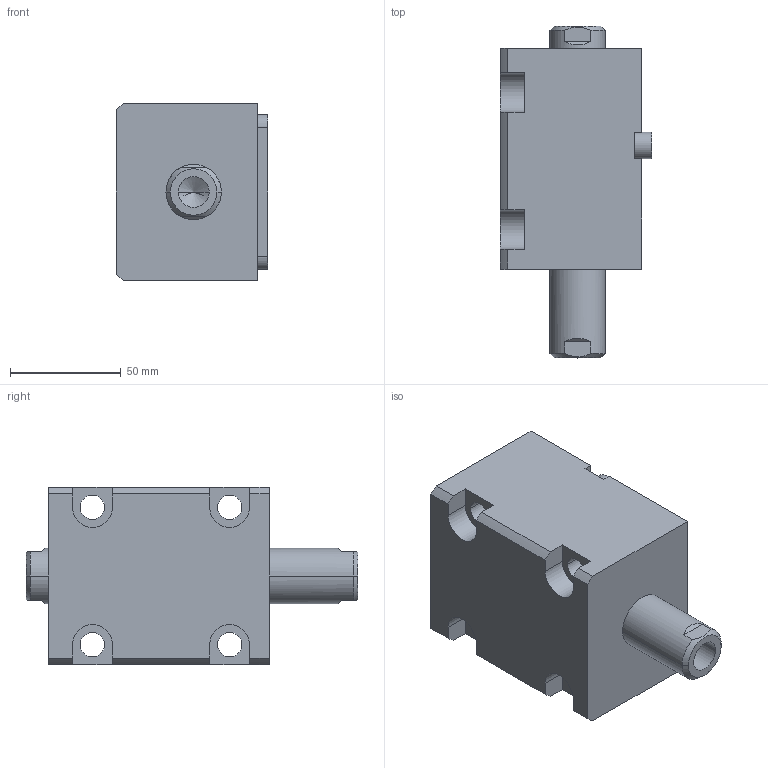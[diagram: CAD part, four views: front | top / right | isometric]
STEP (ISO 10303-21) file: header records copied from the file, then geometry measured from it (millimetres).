
FILE_DESCRIPTION (( 'STEP AP214' ), '1' );
FILE_NAME ('chtb-lwm40x30n_asm.STEP', '2018-05-30T08:00:10', ( 'Windows' ), ( 'Microsoft' ), 'SwSTEP 2.0', 'SolidWorks 2015', '' );
FILE_SCHEMA (( 'AUTOMOTIVE_DESIGN' ));
Length unit declared in the file: millimetre
Products named in the file (5): CHTB-SW40X30NHSG; CHTB-SD40QG; CHTB-LWM40X30NBT; CHTB-LA40PJ; chtb-lwm40x30n_asm
Assembly tree (4 placements, depth 2):
  chtb-lwm40x30n_asm
    CHTB-LA40PJ
    CHTB-LWM40X30NBT
    CHTB-SD40QG
    CHTB-SW40X30NHSG
Bounding box: 68.5 x 150 x 80 mm (x, y, z)
Volume: 472532.3 mm3; surface area: 88682.9 mm2
Topology: 4 solids, 4 shells, 166 faces, 450 edges, 296 vertices
Faces by surface type: cylinder 77, plane 50, bspline 14, cone 13, torus 12
Entity records: 10488 total; most frequent: CARTESIAN_POINT 6156, ORIENTED_EDGE 880, DIRECTION 821, EDGE_CURVE 440, AXIS2_PLACEMENT_3D 326, VERTEX_POINT 296, EDGE_LOOP 196, VECTOR 169
